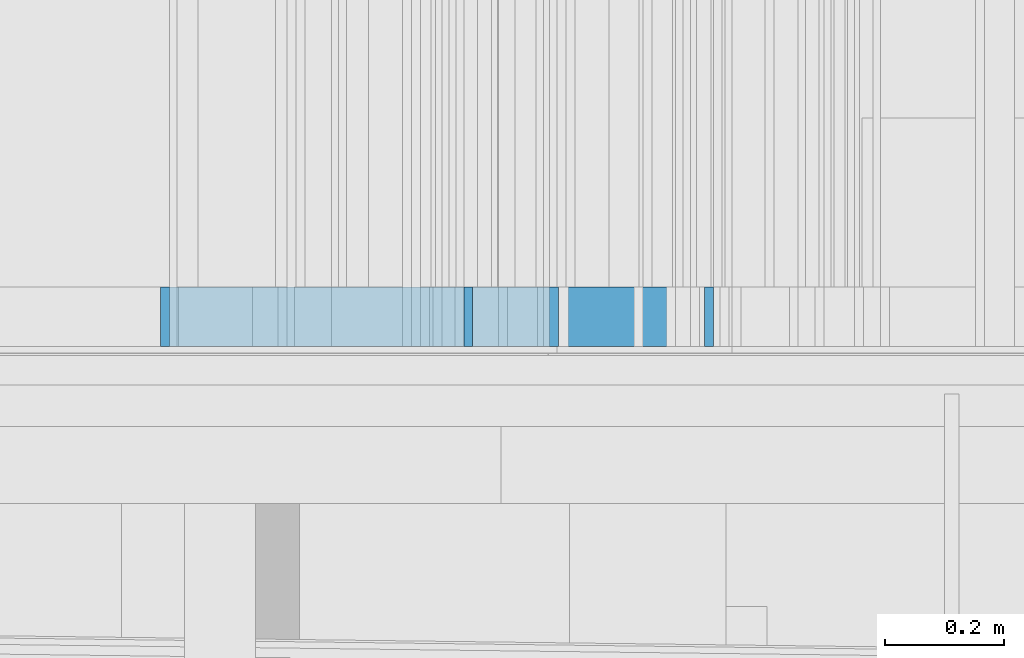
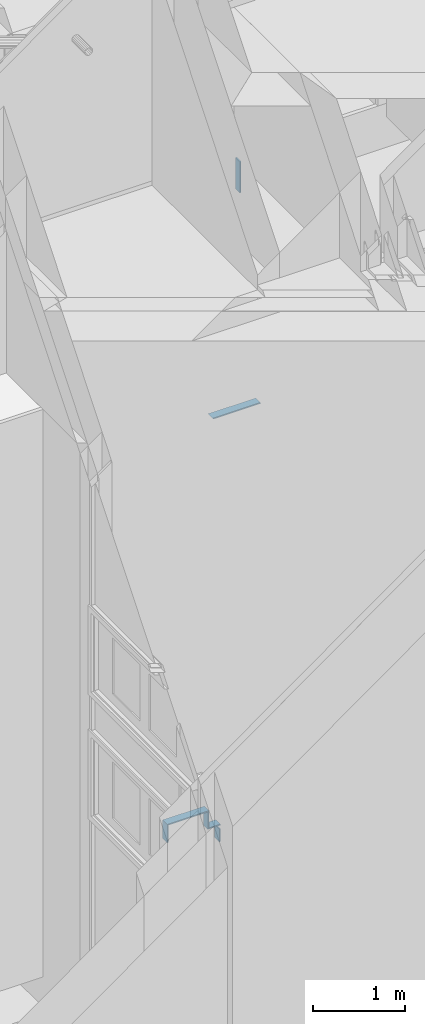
# One storey, part 181 of 583: 7 building element parts, 7 elements without a shape of their own.
"""IFC2X3 building model written with IfcOpenShell, lengths in metres."""

from ifc_helpers import new_model, entity, si_unit, converted_unit, derived_unit, money_unit, direction, frame, frame_2d, origin_with_axes, place, context, subcontext, project, spatial, polyline, rectangle, outline, extrude, material, type_object, element, aggregate, save


model = new_model("IFC2X3")

# Units and contexts
model_context = context("Model", 3, precision=1e-05, world=origin_with_axes(), true_north=direction((0.0, 1.0)))
body_context = subcontext(model_context, "Body", "Model", "MODEL_VIEW", scale=1.0)
ifc_project = project(units=[si_unit("LENGTHUNIT", "METRE"), si_unit("AREAUNIT", "SQUARE_METRE"), si_unit("VOLUMEUNIT", "CUBIC_METRE"), si_unit("ABSORBEDDOSEUNIT", "GRAY"), si_unit("AMOUNTOFSUBSTANCEUNIT", "MOLE"), si_unit("DOSEEQUIVALENTUNIT", "SIEVERT"), si_unit("ELECTRICCAPACITANCEUNIT", "FARAD"), si_unit("ELECTRICCHARGEUNIT", "COULOMB"), si_unit("ELECTRICCONDUCTANCEUNIT", "SIEMENS"), si_unit("ELECTRICCURRENTUNIT", "AMPERE"), si_unit("ELECTRICRESISTANCEUNIT", "OHM"), si_unit("ELECTRICVOLTAGEUNIT", "VOLT"), si_unit("ENERGYUNIT", "JOULE"), si_unit("FORCEUNIT", "NEWTON"), si_unit("FREQUENCYUNIT", "HERTZ"), si_unit("ILLUMINANCEUNIT", "LUX"), si_unit("INDUCTANCEUNIT", "HENRY"), si_unit("LUMINOUSFLUXUNIT", "LUMEN"), si_unit("LUMINOUSINTENSITYUNIT", "CANDELA"), si_unit("MAGNETICFLUXDENSITYUNIT", "TESLA"), si_unit("MAGNETICFLUXUNIT", "WEBER"), si_unit("MASSUNIT", "GRAM"), converted_unit("PLANEANGLEUNIT", "degree", entity("IfcReal", 0.0174532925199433), si_unit("PLANEANGLEUNIT", "RADIAN"), dimensions=[0, 0, 0, 0, 0, 0, 0]), si_unit("POWERUNIT", "WATT"), si_unit("PRESSUREUNIT", "PASCAL"), si_unit("RADIOACTIVITYUNIT", "BECQUEREL"), si_unit("SOLIDANGLEUNIT", "STERADIAN"), si_unit("THERMODYNAMICTEMPERATUREUNIT", "KELVIN"), si_unit("TIMEUNIT", "SECOND"), derived_unit("ACCELERATIONUNIT", [(si_unit("LENGTHUNIT", "METRE"), 1), (si_unit("TIMEUNIT", "SECOND"), -2)]), derived_unit("ANGULARVELOCITYUNIT", [(converted_unit("PLANEANGLEUNIT", "degree", entity("IfcReal", 0.0174532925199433), si_unit("PLANEANGLEUNIT", "RADIAN"), dimensions=[0, 0, 0, 0, 0, 0, 0]), 1), (si_unit("TIMEUNIT", "SECOND"), -1)]), derived_unit("CURVATUREUNIT", [(converted_unit("PLANEANGLEUNIT", "degree", entity("IfcReal", 0.0174532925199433), si_unit("PLANEANGLEUNIT", "RADIAN"), dimensions=[0, 0, 0, 0, 0, 0, 0]), 1), (si_unit("LENGTHUNIT", "METRE"), -1)]), derived_unit("DYNAMICVISCOSITYUNIT", [(si_unit("PRESSUREUNIT", "PASCAL"), 1), (si_unit("TIMEUNIT", "SECOND"), 1)]), derived_unit("HEATFLUXDENSITYUNIT", [(si_unit("POWERUNIT", "WATT"), 1), (si_unit("LENGTHUNIT", "METRE"), -2)]), derived_unit("HEATINGVALUEUNIT", [(si_unit("ENERGYUNIT", "JOULE"), 1), (si_unit("MASSUNIT", "GRAM"), -1)]), derived_unit("INTEGERCOUNTRATEUNIT", [(si_unit("TIMEUNIT", "SECOND"), -1)]), derived_unit("IONCONCENTRATIONUNIT", [(si_unit("MASSUNIT", "GRAM"), 1), (si_unit("VOLUMEUNIT", "CUBIC_METRE"), -1)]), derived_unit("ISOTHERMALMOISTURECAPACITYUNIT", [(si_unit("VOLUMEUNIT", "CUBIC_METRE"), 1), (si_unit("MASSUNIT", "GRAM"), -1)]), derived_unit("KINEMATICVISCOSITYUNIT", [(si_unit("AREAUNIT", "SQUARE_METRE"), 1), (si_unit("TIMEUNIT", "SECOND"), -1)]), derived_unit("LINEARFORCEUNIT", [(si_unit("FORCEUNIT", "NEWTON"), 1), (si_unit("LENGTHUNIT", "METRE"), -1)]), derived_unit("LINEARMOMENTUNIT", [(si_unit("FORCEUNIT", "NEWTON"), 1), (si_unit("LENGTHUNIT", "METRE"), -1)]), derived_unit("LINEARSTIFFNESSUNIT", [(si_unit("FORCEUNIT", "NEWTON"), 1), (si_unit("LENGTHUNIT", "METRE"), -1)]), derived_unit("LINEARVELOCITYUNIT", [(si_unit("LENGTHUNIT", "METRE"), 1), (si_unit("TIMEUNIT", "SECOND"), -1)]), derived_unit("LUMINOUSINTENSITYDISTRIBUTIONUNIT", [(si_unit("LUMINOUSINTENSITYUNIT", "CANDELA"), 1), (si_unit("LUMINOUSFLUXUNIT", "LUMEN"), -1)]), derived_unit("MASSDENSITYUNIT", [(si_unit("MASSUNIT", "GRAM"), 1), (si_unit("VOLUMEUNIT", "CUBIC_METRE"), -1)]), derived_unit("MASSFLOWRATEUNIT", [(si_unit("MASSUNIT", "GRAM"), 1), (si_unit("TIMEUNIT", "SECOND"), -1)]), derived_unit("MASSPERLENGTHUNIT", [(si_unit("MASSUNIT", "GRAM"), 1), (si_unit("LENGTHUNIT", "METRE"), -1)]), derived_unit("MODULUSOFELASTICITYUNIT", [(si_unit("FORCEUNIT", "NEWTON"), 1), (si_unit("AREAUNIT", "SQUARE_METRE"), -1)]), derived_unit("MODULUSOFLINEARSUBGRADEREACTIONUNIT", [(si_unit("FORCEUNIT", "NEWTON"), 1), (si_unit("LENGTHUNIT", "METRE"), -2)]), derived_unit("MODULUSOFROTATIONALSUBGRADEREACTIONUNIT", [(si_unit("FORCEUNIT", "NEWTON"), 1), (si_unit("LENGTHUNIT", "METRE"), 1)]), derived_unit("MODULUSOFSUBGRADEREACTIONUNIT", [(si_unit("FORCEUNIT", "NEWTON"), 1), (si_unit("VOLUMEUNIT", "CUBIC_METRE"), -1)]), derived_unit("MOISTUREDIFFUSIVITYUNIT", [(si_unit("VOLUMEUNIT", "CUBIC_METRE"), 1), (si_unit("TIMEUNIT", "SECOND"), -1)]), derived_unit("MOLECULARWEIGHTUNIT", [(si_unit("MASSUNIT", "GRAM"), 1), (si_unit("AMOUNTOFSUBSTANCEUNIT", "MOLE"), -1)]), derived_unit("PLANARFORCEUNIT", [(si_unit("FORCEUNIT", "NEWTON"), 1), (si_unit("LENGTHUNIT", "METRE"), -2)]), derived_unit("ROTATIONALFREQUENCYUNIT", [(si_unit("TIMEUNIT", "SECOND"), -1)]), derived_unit("ROTATIONALMASSUNIT", [(si_unit("MASSUNIT", "GRAM"), 1), (si_unit("LENGTHUNIT", "METRE"), 2)]), derived_unit("ROTATIONALSTIFFNESSUNIT", [(si_unit("FORCEUNIT", "NEWTON"), 1), (si_unit("LENGTHUNIT", "METRE"), 1), (converted_unit("PLANEANGLEUNIT", "degree", entity("IfcReal", 0.0174532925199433), si_unit("PLANEANGLEUNIT", "RADIAN"), dimensions=[0, 0, 0, 0, 0, 0, 0]), -1)]), derived_unit("SECTIONAREAINTEGRALUNIT", [(si_unit("LENGTHUNIT", "METRE"), 5)]), derived_unit("SECTIONMODULUSUNIT", [(si_unit("LENGTHUNIT", "METRE"), 3)]), derived_unit("SHEARMODULUSUNIT", [(si_unit("FORCEUNIT", "NEWTON"), 1), (si_unit("AREAUNIT", "SQUARE_METRE"), -1)]), derived_unit("SOUNDPOWERUNIT", [(si_unit("ENERGYUNIT", "JOULE"), 1), (si_unit("TIMEUNIT", "SECOND"), -1)]), derived_unit("SPECIFICHEATCAPACITYUNIT", [(si_unit("FORCEUNIT", "NEWTON"), 1), (si_unit("MASSUNIT", "GRAM"), -1), (si_unit("THERMODYNAMICTEMPERATUREUNIT", "KELVIN"), -1)]), derived_unit("TEMPERATUREGRADIENTUNIT", [(si_unit("THERMODYNAMICTEMPERATUREUNIT", "KELVIN"), 1), (si_unit("LENGTHUNIT", "METRE"), -1)]), derived_unit("THERMALADMITTANCEUNIT", [(si_unit("POWERUNIT", "WATT"), 1), (si_unit("AREAUNIT", "SQUARE_METRE"), -1), (si_unit("THERMODYNAMICTEMPERATUREUNIT", "KELVIN"), -1)]), derived_unit("THERMALCONDUCTANCEUNIT", [(si_unit("POWERUNIT", "WATT"), 1), (si_unit("LENGTHUNIT", "METRE"), -1), (si_unit("THERMODYNAMICTEMPERATUREUNIT", "KELVIN"), -1)]), derived_unit("THERMALEXPANSIONCOEFFICIENTUNIT", [(si_unit("THERMODYNAMICTEMPERATUREUNIT", "KELVIN"), -1)]), derived_unit("THERMALRESISTANCEUNIT", [(si_unit("AREAUNIT", "SQUARE_METRE"), 1), (si_unit("POWERUNIT", "WATT"), -1)]), derived_unit("THERMALTRANSMITTANCEUNIT", [(si_unit("POWERUNIT", "WATT"), 1), (si_unit("AREAUNIT", "SQUARE_METRE"), -1), (si_unit("THERMODYNAMICTEMPERATUREUNIT", "KELVIN"), -1)]), derived_unit("TORQUEUNIT", [(si_unit("FORCEUNIT", "NEWTON"), 1), (si_unit("LENGTHUNIT", "METRE"), 1)]), derived_unit("VAPORPERMEABILITYUNIT", [(si_unit("MASSUNIT", "GRAM"), 1), (si_unit("TIMEUNIT", "SECOND"), -1)]), derived_unit("VOLUMETRICFLOWRATEUNIT", [(si_unit("VOLUMEUNIT", "CUBIC_METRE"), 1), (si_unit("TIMEUNIT", "SECOND"), -1)]), derived_unit("WARPINGCONSTANTUNIT", [(si_unit("LENGTHUNIT", "METRE"), 6)]), derived_unit("WARPINGMOMENTUNIT", [(si_unit("FORCEUNIT", "NEWTON"), 1), (si_unit("LENGTHUNIT", "METRE"), 2)]), money_unit("GBP")], contexts=[model_context])

# Site, building, storey
site_placement = place(None, origin_with_axes())
site = spatial("IfcSite", under=ifc_project, at=site_placement, Name="Site", CompositionType="ELEMENT")
building_placement = place(site_placement, origin_with_axes())
building = spatial("IfcBuilding", under=site, at=building_placement, Name="Building01", CompositionType="ELEMENT")
storey_placement = place(building_placement, frame((0.0, 0.0, 20.78), z_axis=(0.0, 0.0, 1.0), x_axis=(1.0, 0.0, 0.0)))
storey = spatial("IfcBuildingStorey", under=building, at=storey_placement, Name="RL", CompositionType="ELEMENT", Elevation=20.78)

# Wall, building element part
wall_type_1 = type_object("IfcWallType", Name="SHE_A-Walls_Type04c_RiserWall_102mm_tall", PredefinedType="NOTDEFINED")
wall_1_placement = place(storey_placement, frame((6.968405, 5.165, -11.72), z_axis=(0.0, 1.0, 0.0), x_axis=(0.0, 0.0, -1.0)))
wall_1 = element("IfcWall", 1, at=wall_1_placement, inside=storey, type_object=wall_type_1, Name="4C", ObjectType="SHE_A-Walls_Type04c_RiserWall_102mm_tall")
ifc_material = material(Name="A_BSUK_Walls_Timber")
building_element_part_1_placement = place(wall_1_placement, origin_with_axes())
building_element_part_1 = element("IfcBuildingElementPart", 2, at=building_element_part_1_placement, material=ifc_material, Name="1", context=body_context, shape_type="SweptSolid", body=[
    extrude(outline(polyline([(0.417, 0.015), (0.0, 0.015), (0.0, 0.0), (0.402, 0.0), (0.417, 0.015)])), origin_with_axes(), (0.0, 0.0, 1.0), 0.1),
])
aggregate(wall_1, [building_element_part_1])

wall_type_2 = type_object("IfcWallType", Name="SHE_A-Walls_Type05a_Partition_95mm_tall", PredefinedType="NOTDEFINED")
wall_2_placement = place(storey_placement, frame((6.571475, 5.15, -14.975331), z_axis=(0.0, 1.0, 0.0), x_axis=(1.0, 0.0, 0.0)))
wall_2 = element("IfcWall", 3, at=wall_2_placement, inside=storey, type_object=wall_type_2, Name="5A", ObjectType="SHE_A-Walls_Type05a_Partition_95mm_tall")
building_element_part_2_placement = place(wall_2_placement, origin_with_axes())
building_element_part_2 = element("IfcBuildingElementPart", 4, at=building_element_part_2_placement, material=ifc_material, Name="3", context=body_context, shape_type="SweptSolid", body=[
    extrude(outline(polyline([(0.65, 0.05), (0.05, 0.05), (0.035, 0.035), (0.635, 0.035), (0.65, 0.05)])), frame((0.0, 0.0, 0.015), z_axis=(0.0, 0.0, 1.0), x_axis=(1.0, 0.0, 0.0)), (0.0, 0.0, 1.0), 0.1),
])
aggregate(wall_2, [building_element_part_2])

wall_type_3 = type_object("IfcWallType", Name="SHE_A-Walls_Type06d_ExternalWallInsulation_48mm", PredefinedType="NOTDEFINED")
wall_3_placement = place(storey_placement, frame((6.68018, 5.15, -20.51), z_axis=(0.0, 1.0, 0.0), x_axis=(-1.0, 0.0, 0.0)))
wall_3 = element("IfcWall", 5, at=wall_3_placement, inside=storey, type_object=wall_type_3, Name="6D", ObjectType="SHE_A-Walls_Type06d_ExternalWallInsulation_48mm")
building_element_part_3_placement = place(wall_3_placement, origin_with_axes())
building_element_part_3 = element("IfcBuildingElementPart", 6, at=building_element_part_3_placement, material=ifc_material, Name="2", context=body_context, shape_type="SweptSolid", body=[
    extrude(outline(polyline([(0.11718, 0.063), (-0.027, 0.063), (-0.027, 0.048), (0.13218, 0.048), (0.11718, 0.063)])), frame((0.0, 0.0, 0.015), z_axis=(0.0, 0.0, 1.0), x_axis=(1.0, 0.0, 0.0)), (0.0, 0.0, 1.0), 0.1),
])
aggregate(wall_3, [building_element_part_3])

wall_4_placement = place(storey_placement, frame((6.64418, 5.15, -20.51), z_axis=(0.0, 1.0, 0.0), x_axis=(0.0, 0.0, -1.0)))
wall_4 = element("IfcWall", 7, at=wall_4_placement, inside=storey, type_object=wall_type_3, Name="6D", ObjectType="SHE_A-Walls_Type06d_ExternalWallInsulation_48mm")
building_element_part_4_placement = place(wall_4_placement, origin_with_axes())
building_element_part_4 = element("IfcBuildingElementPart", 8, at=building_element_part_4_placement, material=ifc_material, Name="2", context=body_context, shape_type="SweptSolid", body=[
    extrude(rectangle(XDim=0.17, YDim=0.015, at=frame_2d((0.085, -0.0555), x_axis=(1.0, 0.0))), frame((0.0, 0.0, 0.015), z_axis=(0.0, 0.0, 1.0), x_axis=(1.0, 0.0, 0.0)), (0.0, 0.0, 1.0), 0.1),
])
aggregate(wall_4, [building_element_part_4])

wall_5_placement = place(storey_placement, frame((6.5, 5.15, -20.51), z_axis=(0.0, 1.0, 0.0), x_axis=(0.0, 0.0, 1.0)))
wall_5 = element("IfcWall", 9, at=wall_5_placement, inside=storey, type_object=wall_type_3, Name="6D", ObjectType="SHE_A-Walls_Type06d_ExternalWallInsulation_48mm")
building_element_part_5_placement = place(wall_5_placement, origin_with_axes())
building_element_part_5 = element("IfcBuildingElementPart", 10, at=building_element_part_5_placement, material=ifc_material, Name="2", context=body_context, shape_type="SweptSolid", body=[
    extrude(outline(polyline([(0.293, 0.063), (0.063, 0.063), (0.048, 0.048), (0.278, 0.048), (0.293, 0.063)])), frame((0.0, 0.0, 0.015), z_axis=(0.0, 0.0, 1.0), x_axis=(1.0, 0.0, 0.0)), (0.0, 0.0, 1.0), 0.1),
])
aggregate(wall_5, [building_element_part_5])

wall_6_placement = place(storey_placement, frame((6.536, 5.15, -20.28), z_axis=(0.0, 1.0, 0.0), x_axis=(-1.0, 0.0, 0.0)))
wall_6 = element("IfcWall", 11, at=wall_6_placement, inside=storey, type_object=wall_type_3, Name="6D", ObjectType="SHE_A-Walls_Type06d_ExternalWallInsulation_48mm")
building_element_part_6_placement = place(wall_6_placement, origin_with_axes())
building_element_part_6 = element("IfcBuildingElementPart", 12, at=building_element_part_6_placement, material=ifc_material, Name="2", context=body_context, shape_type="SweptSolid", body=[
    extrude(outline(polyline([(0.499, 0.063), (-0.027, 0.063), (-0.012, 0.048), (0.484, 0.048), (0.499, 0.063)])), frame((0.0, 0.0, 0.015), z_axis=(0.0, 0.0, 1.0), x_axis=(1.0, 0.0, 0.0)), (0.0, 0.0, 1.0), 0.1),
])
aggregate(wall_6, [building_element_part_6])

wall_7_placement = place(storey_placement, frame((6.1, 5.15, -20.28), z_axis=(0.0, 1.0, 0.0), x_axis=(0.0, 0.0, -1.0)))
wall_7 = element("IfcWall", 13, at=wall_7_placement, inside=storey, type_object=wall_type_3, Name="6D", ObjectType="SHE_A-Walls_Type06d_ExternalWallInsulation_48mm")
building_element_part_7_placement = place(wall_7_placement, origin_with_axes())
building_element_part_7 = element("IfcBuildingElementPart", 14, at=building_element_part_7_placement, material=ifc_material, Name="2", context=body_context, shape_type="SweptSolid", body=[
    extrude(outline(polyline([(0.182, 0.063), (-0.063, 0.063), (-0.048, 0.048), (0.182, 0.048), (0.182, 0.063)])), frame((0.0, 0.0, 0.015), z_axis=(0.0, 0.0, 1.0), x_axis=(1.0, 0.0, 0.0)), (0.0, 0.0, 1.0), 0.1),
])
aggregate(wall_7, [building_element_part_7])

save(model, "model.ifc")
